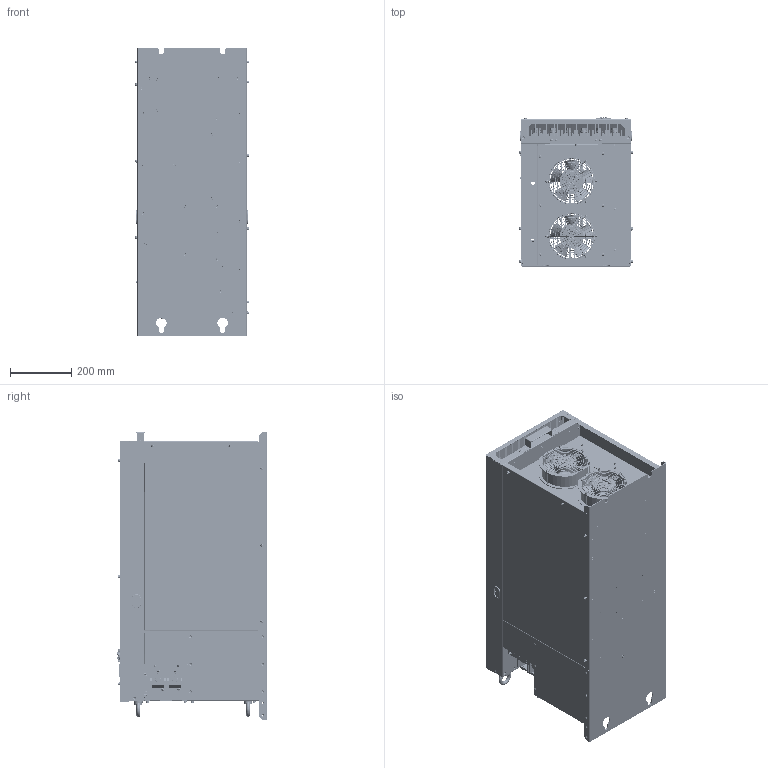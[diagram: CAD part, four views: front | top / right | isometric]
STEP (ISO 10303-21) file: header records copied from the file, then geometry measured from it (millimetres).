
FILE_DESCRIPTION(/* description */ (''),/* implementation_level */ '2;1');
FILE_NAME(/* name */ 'VF302C-B9-3d.step',/* time_stamp */ '2023-03-02T11:32:13+07:00',/* author */ (''),/* organization */ (''),/* preprocessor_version */ 'ST-DEVELOPER v19.2',/* originating_system */ 'Autodesk Translation Framework v11.17.0.187',/* authorisation */ '');
FILE_SCHEMA (('AUTOMOTIVE_DESIGN { 1 0 10303 214 3 1 1 }'));
Products named in the file (32): (Unsaved); VF302C-B9-D_ASM; VF302C-B9-P_ASM; P013_ASM; ASM0001_ASM; VF302C-B9-A_ASM; VF302C-B9-M001; VF302C-B9-0S_ASM; 24_VC0000000008-P0001; M5X14_GB9074_8; M6X20_GB9074_8; M5X12_GB9074_8; M4X60_GB9074_8; M6X14_GB9074_8; M8X16_GB9074_13; M12_GB97_1; M12_GB93_87; M12X25_GB5783; M6X16_GB9074_8; M4X10_GB819_1; M3X8_GB9074_8; M5X12_GB9074_13; M4X10_GB9074_8; PF_M4X5; koleso_display; VEDAVFD; tablichka_gc_v_a_2; display_2; knopka_pusk; knopka_stop; knopka_prg2; knopka_jog_rev
Assembly tree (399 placements, depth 3):
  (Unsaved)
    VF302C-B9-D_ASM
    VF302C-B9-P_ASM
      P013_ASM
      ASM0001_ASM
    VF302C-B9-A_ASM
    VF302C-B9-M001
    VF302C-B9-0S_ASM
      M5X14_GB9074_8  x70
      M6X20_GB9074_8  x36
      M8X16_GB9074_13  x17
      M4X10_GB9074_8  x49
      M5X12_GB9074_8  x44
      24_VC0000000008-P0001  x2
      M6X16_GB9074_8  x66
      M6X14_GB9074_8  x25
      M3X8_GB9074_8  x23
      M12_GB97_1  x8
      M12_GB93_87  x8
      M4X60_GB9074_8  x8
      M12X25_GB5783  x8
      M4X10_GB819_1  x4
      M5X12_GB9074_13  x6
      PF_M4X5  x10
    koleso_display
    VEDAVFD
    tablichka_gc_v_a_2
    display_2
      knopka_pusk
      knopka_stop
      knopka_prg2
      knopka_jog_rev
Bounding box: 371.47 x 487.87 x 940 mm (x, y, z)
Volume: 6854663.7 mm3; surface area: 7112329.9 mm2
Topology: 657 solids, 1027 shells, 31381 faces, 78594 edges, 51272 vertices
Faces by surface type: plane 22423, cylinder 4953, bspline 2310, cone 657, torus 576, sphere 462
Full cylindrical faces by diameter (mm): 0.5 x494, 0.8 x30, 0.9 x8, 1 x30, 1.08 x1, 1.5 x4, 1.8 x4, 2 x16, 2.2 x12, 2.5 x73, 2.6 x6, 3 x38, 3.2 x1, 3.3 x11, 3.5 x58, 3.6 x50, 3.8 x20, 4 x169, 4.2 x153, 4.39 x7, 4.5 x151, 4.99 x14, 5 x261, 5.38 x50, 5.39 x24, 5.4 x95, 5.5 x25, 5.79 x2, 5.9 x54, 6 x174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
Entity records: 744147 total; most frequent: CARTESIAN_POINT 186372, ORIENTED_EDGE 115502, DIRECTION 107261, EDGE_CURVE 57766, LINE 43415, VECTOR 43415, VERTEX_POINT 37499, AXIS2_PLACEMENT_3D 31923
